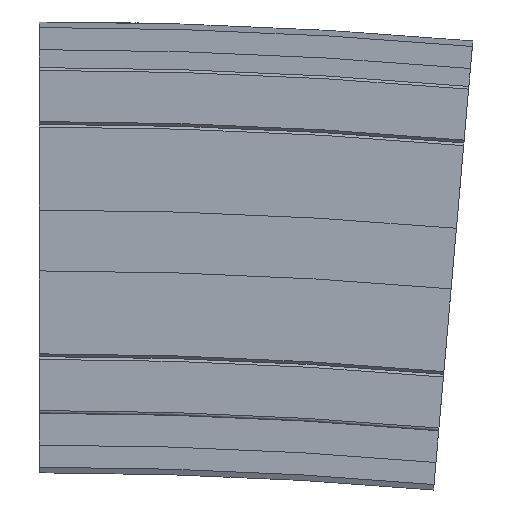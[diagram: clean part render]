
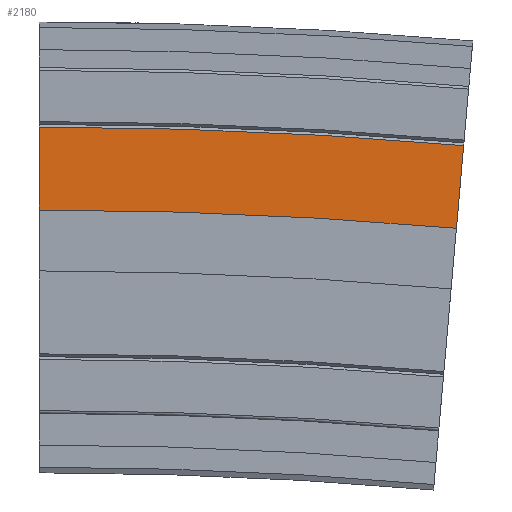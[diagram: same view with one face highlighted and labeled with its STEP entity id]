
A CAD part, front view. The second image highlights one B-rep face of the part: STEP entity #2180.
In plain terms, the highlighted planar face has unit normal (0, -1, 0).
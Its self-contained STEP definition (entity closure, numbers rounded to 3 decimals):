
#2122=CARTESIAN_POINT('',(75.433,-43.0,-37.293));
#2123=VERTEX_POINT('',#2122);
#2130=CARTESIAN_POINT('',(0.0,-43.0,-34.));
#2131=VERTEX_POINT('',#2130);
#2132=CARTESIAN_POINT('',(0.,-43.0,-899.5));
#2133=DIRECTION('',(0.0,1.0,0.0));
#2134=DIRECTION('',(0.0,0.0,1.0));
#2135=AXIS2_PLACEMENT_3D('',#2132,#2133,#2134);
#2136=CIRCLE('',#2135,865.5);
#2137=EDGE_CURVE('',#2131,#2123,#2136,.T.);
#2149=CARTESIAN_POINT('',(0.0,-43.0,-26.5));
#2150=DIRECTION('',(0.0,-1.0,0.0));
#2151=DIRECTION('',(0.0,0.0,-1.0));
#2152=AXIS2_PLACEMENT_3D('',#2149,#2150,#2151);
#2153=PLANE('',#2152);
#2154=CARTESIAN_POINT('',(76.741,-43.0,-22.351));
#2155=VERTEX_POINT('',#2154);
#2156=CARTESIAN_POINT('',(75.433,-43.0,-37.293));
#2157=DIRECTION('',(0.087,0.0,0.996));
#2158=VECTOR('',#2157,15.);
#2159=LINE('',#2156,#2158);
#2160=EDGE_CURVE('',#2123,#2155,#2159,.T.);
#2161=ORIENTED_EDGE('',*,*,#2160,.T.);
#2162=CARTESIAN_POINT('',(0.0,-43.0,-19.));
#2163=VERTEX_POINT('',#2162);
#2164=CARTESIAN_POINT('',(0.,-43.0,-899.5));
#2165=DIRECTION('',(0.0,1.0,0.0));
#2166=DIRECTION('',(0.0,0.0,1.0));
#2167=AXIS2_PLACEMENT_3D('',#2164,#2165,#2166);
#2168=CIRCLE('',#2167,880.5);
#2169=EDGE_CURVE('',#2163,#2155,#2168,.T.);
#2170=ORIENTED_EDGE('',*,*,#2169,.F.);
#2171=CARTESIAN_POINT('',(0.0,-43.0,-19.));
#2172=DIRECTION('',(0.0,0.0,-1.0));
#2173=VECTOR('',#2172,15.);
#2174=LINE('',#2171,#2173);
#2175=EDGE_CURVE('',#2163,#2131,#2174,.T.);
#2176=ORIENTED_EDGE('',*,*,#2175,.T.);
#2177=ORIENTED_EDGE('',*,*,#2137,.T.);
#2178=EDGE_LOOP('',(#2161,#2170,#2176,#2177));
#2179=FACE_OUTER_BOUND('',#2178,.T.);
#2180=ADVANCED_FACE('',(#2179),#2153,.T.);
